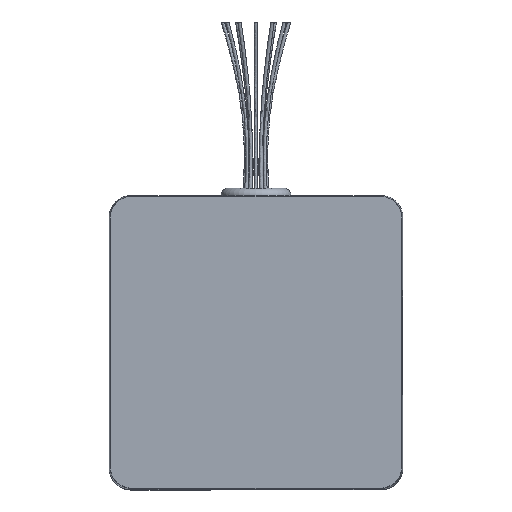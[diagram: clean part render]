
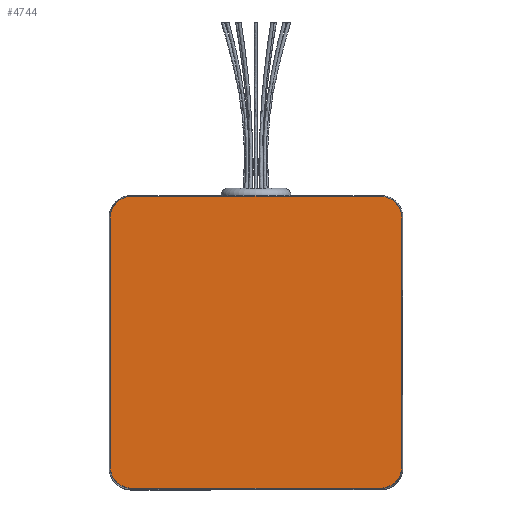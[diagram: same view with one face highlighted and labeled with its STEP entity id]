
A CAD part, top view. The second image highlights one B-rep face of the part: STEP entity #4744.
In plain terms, the highlighted planar face has unit normal (0, 0, 1).
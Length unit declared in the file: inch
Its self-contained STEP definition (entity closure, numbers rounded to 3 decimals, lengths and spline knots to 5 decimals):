
#4054=CARTESIAN_POINT('',(0.0,1.675,5.195));
#4055=VERTEX_POINT('',#4054);
#4099=CARTESIAN_POINT('',(-1.425,1.675,5.195));
#4100=VERTEX_POINT('',#4099);
#4107=CARTESIAN_POINT('',(-1.425,1.675,5.195));
#4108=DIRECTION('',(1.0,0.0,0.0));
#4109=VECTOR('',#4108,1.425);
#4110=LINE('',#4107,#4109);
#4111=EDGE_CURVE('',#4100,#4055,#4110,.T.);
#4122=CARTESIAN_POINT('',(1.425,1.675,5.195));
#4123=VERTEX_POINT('',#4122);
#4124=CARTESIAN_POINT('',(0.0,1.675,5.195));
#4125=DIRECTION('',(1.0,0.0,0.0));
#4126=VECTOR('',#4125,1.425);
#4127=LINE('',#4124,#4126);
#4128=EDGE_CURVE('',#4055,#4123,#4127,.T.);
#4267=CARTESIAN_POINT('',(1.675,1.425,5.195));
#4268=VERTEX_POINT('',#4267);
#4275=CARTESIAN_POINT('',(1.675,-1.425,5.195));
#4276=VERTEX_POINT('',#4275);
#4277=CARTESIAN_POINT('',(1.675,1.425,5.195));
#4278=DIRECTION('',(0.0,-1.0,0.0));
#4279=VECTOR('',#4278,2.85);
#4280=LINE('',#4277,#4279);
#4281=EDGE_CURVE('',#4268,#4276,#4280,.T.);
#4345=CARTESIAN_POINT('',(1.425,1.425,5.195));
#4346=DIRECTION('',(0.0,0.0,-1.));
#4347=DIRECTION('',(0.707,0.707,0.0));
#4348=AXIS2_PLACEMENT_3D('',#4345,#4346,#4347);
#4349=CIRCLE('',#4348,0.25);
#4350=EDGE_CURVE('',#4123,#4268,#4349,.T.);
#4434=CARTESIAN_POINT('',(-1.675,1.425,5.195));
#4435=VERTEX_POINT('',#4434);
#4442=CARTESIAN_POINT('',(-1.425,1.425,5.195));
#4443=DIRECTION('',(0.0,0.0,-1.));
#4444=DIRECTION('',(-0.707,0.707,0.0));
#4445=AXIS2_PLACEMENT_3D('',#4442,#4443,#4444);
#4446=CIRCLE('',#4445,0.25);
#4447=EDGE_CURVE('',#4435,#4100,#4446,.T.);
#4520=CARTESIAN_POINT('',(1.425,-1.675,5.195));
#4521=VERTEX_POINT('',#4520);
#4528=CARTESIAN_POINT('',(-1.425,-1.675,5.195));
#4529=VERTEX_POINT('',#4528);
#4530=CARTESIAN_POINT('',(1.425,-1.675,5.195));
#4531=DIRECTION('',(-1.0,0.0,0.0));
#4532=VECTOR('',#4531,2.85);
#4533=LINE('',#4530,#4532);
#4534=EDGE_CURVE('',#4521,#4529,#4533,.T.);
#4552=CARTESIAN_POINT('',(1.425,-1.425,5.195));
#4553=DIRECTION('',(0.0,0.0,-1.));
#4554=DIRECTION('',(0.707,-0.707,0.0));
#4555=AXIS2_PLACEMENT_3D('',#4552,#4553,#4554);
#4556=CIRCLE('',#4555,0.25);
#4557=EDGE_CURVE('',#4276,#4521,#4556,.T.);
#4704=CARTESIAN_POINT('',(-1.675,-1.425,5.195));
#4705=VERTEX_POINT('',#4704);
#4712=CARTESIAN_POINT('',(-1.675,-1.425,5.195));
#4713=DIRECTION('',(0.0,1.0,0.0));
#4714=VECTOR('',#4713,2.85);
#4715=LINE('',#4712,#4714);
#4716=EDGE_CURVE('',#4705,#4435,#4715,.T.);
#4722=CARTESIAN_POINT('',(0.,0.,5.195));
#4723=DIRECTION('',(0.0,0.0,1.0));
#4724=DIRECTION('',(1.0,0.0,0.0));
#4725=AXIS2_PLACEMENT_3D('',#4722,#4723,#4724);
#4726=PLANE('',#4725);
#4727=CARTESIAN_POINT('',(-1.425,-1.425,5.195));
#4728=DIRECTION('',(0.0,0.0,-1.));
#4729=DIRECTION('',(-0.707,-0.707,0.0));
#4730=AXIS2_PLACEMENT_3D('',#4727,#4728,#4729);
#4731=CIRCLE('',#4730,0.25);
#4732=EDGE_CURVE('',#4529,#4705,#4731,.T.);
#4733=ORIENTED_EDGE('',*,*,#4732,.F.);
#4734=ORIENTED_EDGE('',*,*,#4534,.F.);
#4735=ORIENTED_EDGE('',*,*,#4557,.F.);
#4736=ORIENTED_EDGE('',*,*,#4281,.F.);
#4737=ORIENTED_EDGE('',*,*,#4350,.F.);
#4738=ORIENTED_EDGE('',*,*,#4128,.F.);
#4739=ORIENTED_EDGE('',*,*,#4111,.F.);
#4740=ORIENTED_EDGE('',*,*,#4447,.F.);
#4741=ORIENTED_EDGE('',*,*,#4716,.F.);
#4742=EDGE_LOOP('',(#4733,#4734,#4735,#4736,#4737,#4738,#4739,#4740,#4741));
#4743=FACE_OUTER_BOUND('',#4742,.T.);
#4744=ADVANCED_FACE('',(#4743),#4726,.T.);
